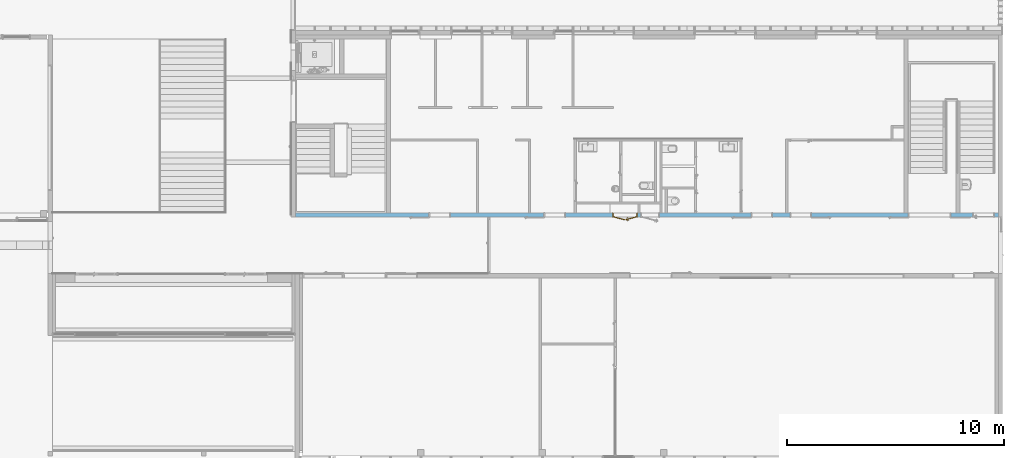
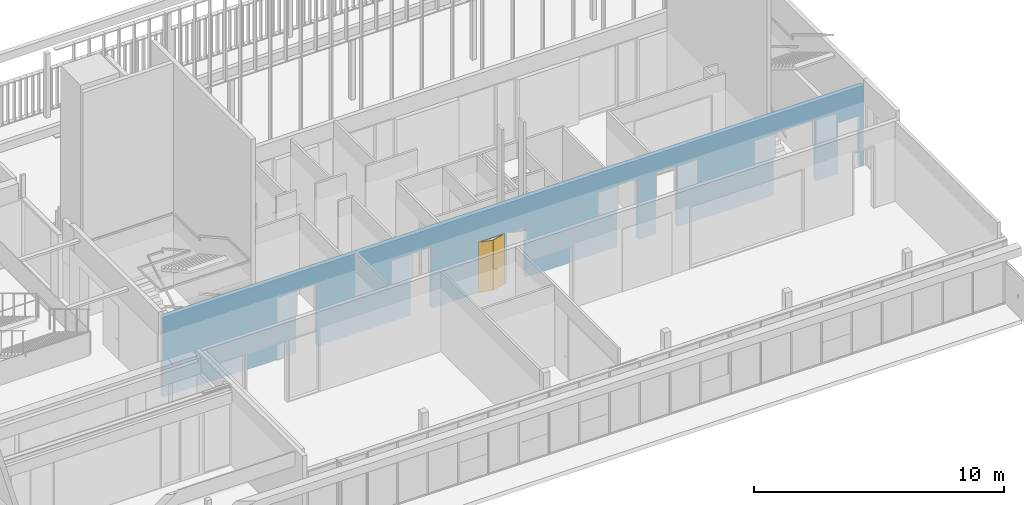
# One storey, part 166 of 240: 1 door, 8 openings, plus 1 element that does not belong to this part.
"""IFC2X3 building model written with IfcOpenShell, lengths in centimetres."""

from ifc_helpers import new_model, entity, si_unit, converted_unit, derived_unit, direction, frame, frame_2d, origin, place, context, subcontext, project, spatial, polyline, rectangle, extrude, clip, bounded_halfspace, faceted_brep, source, transform, mapped, material, material_list, layer, layer_set, layer_usage, type_object, type_shapes, element, fill, save


model = new_model("IFC2X3")

# Units and contexts
model_context = context("Model", 3, precision=0.001, world=origin(), true_north=direction((6.12303176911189e-17, 1.0)))
body_context = subcontext(model_context, "Body", "Model", "MODEL_VIEW")
ifc_project = project(units=[si_unit("LENGTHUNIT", "METRE", prefix="CENTI"), si_unit("AREAUNIT", "SQUARE_METRE"), si_unit("VOLUMEUNIT", "CUBIC_METRE"), converted_unit("PLANEANGLEUNIT", "DEGREE", entity("IfcRatioMeasure", 0.0174532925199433), si_unit("PLANEANGLEUNIT", "RADIAN"), dimensions=[0, 0, 0, 0, 0, 0, 0]), si_unit("MASSUNIT", "GRAM", prefix="KILO"), derived_unit("MASSDENSITYUNIT", [(si_unit("MASSUNIT", "GRAM", prefix="KILO"), 1), (si_unit("LENGTHUNIT", "METRE"), -3)]), si_unit("TIMEUNIT", "SECOND"), si_unit("FREQUENCYUNIT", "HERTZ"), si_unit("THERMODYNAMICTEMPERATUREUNIT", "DEGREE_CELSIUS"), derived_unit("THERMALTRANSMITTANCEUNIT", [(si_unit("MASSUNIT", "GRAM", prefix="KILO"), 1), (si_unit("THERMODYNAMICTEMPERATUREUNIT", "KELVIN"), -1), (si_unit("TIMEUNIT", "SECOND"), -3)]), derived_unit("VOLUMETRICFLOWRATEUNIT", [(si_unit("LENGTHUNIT", "METRE"), 3), (si_unit("TIMEUNIT", "SECOND"), -1)]), si_unit("ELECTRICCURRENTUNIT", "AMPERE"), si_unit("ELECTRICVOLTAGEUNIT", "VOLT"), si_unit("POWERUNIT", "WATT"), si_unit("FORCEUNIT", "NEWTON", prefix="KILO"), si_unit("ILLUMINANCEUNIT", "LUX"), si_unit("LUMINOUSFLUXUNIT", "LUMEN"), si_unit("LUMINOUSINTENSITYUNIT", "CANDELA"), derived_unit("USERDEFINED", [(si_unit("MASSUNIT", "GRAM", prefix="KILO"), -1), (si_unit("LENGTHUNIT", "METRE"), -2), (si_unit("TIMEUNIT", "SECOND"), 3), (si_unit("LUMINOUSFLUXUNIT", "LUMEN"), 1)]), derived_unit("LINEARVELOCITYUNIT", [(si_unit("LENGTHUNIT", "METRE"), 1), (si_unit("TIMEUNIT", "SECOND"), -1)]), si_unit("PRESSUREUNIT", "PASCAL"), derived_unit("USERDEFINED", [(si_unit("LENGTHUNIT", "METRE"), -2), (si_unit("MASSUNIT", "GRAM", prefix="KILO"), 1), (si_unit("TIMEUNIT", "SECOND"), -2)])], contexts=[model_context])

# Site, building, storey
site_placement = place(None, frame((-2781.94577612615, 7442.24238424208, 0.0)))
site = spatial("IfcSite", under=ifc_project, at=site_placement, Name="Default", CompositionType="ELEMENT")
building_placement = place(site_placement, origin())
building = spatial("IfcBuilding", under=site, at=building_placement, CompositionType="ELEMENT")
storey_placement = place(building_placement, origin())
storey = spatial("IfcBuildingStorey", under=building, at=storey_placement, Name="N00 - COO", CompositionType="ELEMENT", Elevation=0.0)

# Wall, openings, door
ifc_material_1 = material(Name="01 - Maçonnerie")
ifc_layer = layer(ifc_material_1, 20.0)
ifc_layer_set = layer_set([ifc_layer], Name="Mur de base:04 - Structure - béton - 20cm")
ifc_layer_usage = layer_usage(ifc_layer_set, "AXIS2", "NEGATIVE", 10.0)
wall_type = type_object("IfcWallType", Name="Mur de base:04 - Structure - béton - 20cm", PredefinedType="STANDARD", material=ifc_layer_set)
wall_placement = place(building_placement, frame((-3647.99987968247, -1920.07903364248, 0.0)))
wall = element("IfcWallStandardCase", 1, at=wall_placement, inside=storey, type_object=wall_type, material=ifc_layer_usage, Name="Mur de base:04 - Structure - béton - 20cm", ObjectType="Mur de base:04 - Structure - béton - 20cm", context=body_context, shape_type="Clipping", body=[
    clip(extrude(rectangle(XDim=3237.99999684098, YDim=19.9999999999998, at=frame_2d((1618.99999842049, -2.66453525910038e-15), x_axis=(-1.0, 0.0))), origin(), (0.0, 0.0, 1.0), 391.0), bounded_halfspace(frame((0.0, -10.0, 391.0), z_axis=(0.0, 0.0, -1.0), x_axis=(0.0, 1.0, 0.0)), True, frame((0.0, -10.0, 391.0)), polyline([(0.0, 0.0), (3238.0, 0.0), (3238.0, 20.0), (3062.69999684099, 20.0), (3042.69999684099, 20.0), (2268.49999684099, 20.0), (2258.49999684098, 20.0), (2058.49999684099, 20.0), (2048.49999684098, 20.0), (1848.49999684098, 20.0), (1838.49999684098, 20.0), (1713.49999684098, 20.0), (1703.49999684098, 20.0), (1293.99999684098, 20.0), (1283.99999684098, 20.0), (1083.99999684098, 20.0), (1073.99999684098, 20.0), (843.999996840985, 20.0), (833.999996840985, 20.0), (438.699996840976, 20.0), (0.0, 20.0), (0.0, 0.0)]))),
])
opening_1_placement = place(wall_placement, frame((3019.69999684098, 10.0, 0.0)))
element("IfcOpeningElement", 2, at=opening_1_placement, cuts=wall, Name="Int. Double:PP (1.90m x 3.00m):1", ObjectType="Opening", context=body_context, shape_type="SweptSolid", body=[
    extrude(rectangle(XDim=304.500000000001, YDim=197.0, at=frame_2d((152.250000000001, 98.5), x_axis=(1.0, 0.0))), frame((0.0, 0.0, 0.0), z_axis=(0.0, -1.0, 0.0), x_axis=(0.0, 0.0, 1.0)), (0.0, 0.0, 1.0), 20.0),
])
opening_2_placement = place(wall_placement, frame((1243.99999684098, 10.0, 0.0)))
element("IfcOpeningElement", 3, at=opening_2_placement, cuts=wall, Name="Int. Simple:PV (0.93m x 3.00m):1", ObjectType="Opening", context=body_context, shape_type="SweptSolid", body=[
    extrude(rectangle(XDim=304.500000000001, YDim=99.9999999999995, at=frame_2d((152.250000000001, 49.9999999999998), x_axis=(1.0, 0.0))), frame((0.0, 0.0, 0.0), z_axis=(0.0, -1.0, 0.0), x_axis=(0.0, 0.0, 1.0)), (0.0, 0.0, 1.0), 20.0),
])
opening_3_placement = place(wall_placement, frame((2198.49999684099, 10.0, 0.0)))
element("IfcOpeningElement", 4, at=opening_3_placement, cuts=wall, Name="Int. Simple:PV (0.93m x 3.00m):1", ObjectType="Opening", context=body_context, shape_type="SweptSolid", body=[
    extrude(rectangle(XDim=304.500000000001, YDim=99.9999999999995, at=frame_2d((152.250000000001, 49.9999999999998), x_axis=(1.0, 0.0))), frame((0.0, 0.0, 0.0), z_axis=(0.0, -1.0, 0.0), x_axis=(0.0, 0.0, 1.0)), (0.0, 0.0, 1.0), 20.0),
])
opening_4_placement = place(wall_placement, frame((713.999996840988, 10.0, 0.0)))
element("IfcOpeningElement", 5, at=opening_4_placement, cuts=wall, Name="Int. Simple:PP (0.93m x 3.06m):1", ObjectType="Opening", context=body_context, shape_type="SweptSolid", body=[
    extrude(rectangle(XDim=309.500000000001, YDim=99.9999999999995, at=frame_2d((154.750000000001, 49.9999999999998), x_axis=(1.0, 0.0))), frame((0.0, 0.0, 0.0), z_axis=(0.0, -1.0, 0.0), x_axis=(0.0, 0.0, 1.0)), (0.0, 0.0, 1.0), 20.0),
])
opening_5_placement = place(wall_placement, frame((1576.99999684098, 10.0, 0.0)))
opening_5 = element("IfcOpeningElement", 6, at=opening_5_placement, cuts=wall, Name="Int. Double:PP Placard (1.10m x 2.50m):1", ObjectType="Opening", context=body_context, shape_type="SweptSolid", body=[
    extrude(rectangle(XDim=248.500000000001, YDim=117.0, at=frame_2d((124.250000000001, 58.5000000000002), x_axis=(1.0, 0.0))), frame((0.0, 0.0, 0.0), z_axis=(0.0, -1.0, 0.0), x_axis=(0.0, 0.0, 1.0)), (0.0, 0.0, 1.0), 20.0),
])
opening_6_placement = place(wall_placement, frame((1677.0, 10.0, 0.0)))
element("IfcOpeningElement", 7, at=opening_6_placement, cuts=wall, Name="Int. Simple:PP Placard (0.80m x 2.50m):1", ObjectType="Opening", context=body_context, shape_type="SweptSolid", body=[
    extrude(rectangle(XDim=248.500000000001, YDim=86.9999999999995, at=frame_2d((124.250000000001, 43.4999999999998), x_axis=(1.0, 0.0))), frame((0.0, 0.0, 0.0), z_axis=(0.0, -1.0, 0.0), x_axis=(0.0, 0.0, 1.0)), (0.0, 0.0, 1.0), 20.0),
])
opening_7_placement = place(wall_placement, frame((2378.49999684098, 10.0, 0.0)))
element("IfcOpeningElement", 8, at=opening_7_placement, cuts=wall, Name="Int. Simple:PV (0.93m x 3.00m):1", ObjectType="Opening", context=body_context, shape_type="SweptSolid", body=[
    extrude(rectangle(XDim=304.500000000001, YDim=99.9999999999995, at=frame_2d((152.250000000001, 49.9999999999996), x_axis=(1.0, 0.0))), frame((0.0, 0.0, 0.0), z_axis=(0.0, -1.0, 0.0), x_axis=(0.0, 0.0, 1.0)), (0.0, 0.0, 1.0), 20.0),
])
opening_8_placement = place(wall_placement, frame((3220.0, 10.0, 0.0)))
element("IfcOpeningElement", 9, at=opening_8_placement, cuts=wall, Name="Int. Simple:PP simple (0.93m x 2.50m):1", ObjectType="Opening", context=body_context, shape_type="SweptSolid", body=[
    extrude(rectangle(XDim=248.500000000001, YDim=99.9999999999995, at=frame_2d((124.250000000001, 49.9999999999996), x_axis=(1.0, 0.0))), frame((0.0, 0.0, 0.0), z_axis=(0.0, -1.0, 0.0), x_axis=(0.0, 0.0, 1.0)), (0.0, 0.0, 1.0), 20.0),
])
ifc_material_2 = material(Name="Bois - Panneau de porte")
ifc_material_3 = material(Name="Finition Peinture - Blanc satiné")
ifc_material_4 = material(Name="Bois - Cadre de porte")
ifc_material_list_1 = material_list([ifc_material_2, ifc_material_3, ifc_material_4])
ifc_material_list_2 = material_list([ifc_material_2, ifc_material_3, ifc_material_4])
door_style = type_object("IfcDoorStyle", Name="PP Placard (1.10m x 2.50m)", ConstructionType="NOTDEFINED", OperationType="DOUBLE_DOOR_SINGLE_SWING", ParameterTakesPrecedence=False, Sizeable=False, material=ifc_material_list_2)
shared_shape = source(origin(), body_context, "Body", "Brep", [
    faceted_brep([(57.6611966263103, -10.3713441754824, 245.0), (57.6611966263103, -10.3713441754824, 0.0), (4.53527618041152, 3.86370330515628, 0.0), (4.53527618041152, 3.86370330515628, 245.0), (56.6259204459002, -14.2350474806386, 245.0), (3.50000000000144, 0.0, 245.0), (3.50000000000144, 0.0, 0.0), (56.6259204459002, -14.2350474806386, 0.0)], [[[0, 1, 2, 3]], [[4, 5, 6, 7]], [[3, 5, 4, 0]], [[2, 6, 5, 3]], [[1, 7, 6, 2]], [[0, 4, 7, 1]]]),
    faceted_brep([(67.2990440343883, -12.897146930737, 86.6003983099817), (68.2308956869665, -12.6474580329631, 87.0), (68.2308956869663, -12.6474580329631, 108.0), (67.2990440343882, -12.897146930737, 108.399601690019), (66.2990440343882, -13.1650961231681, 108.535898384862), (65.2990440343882, -13.4330453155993, 108.399601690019), (64.3671923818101, -13.6827342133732, 108.0), (64.3671923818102, -13.6827342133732, 87.0), (65.2990440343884, -13.4330453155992, 86.6003983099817), (66.2990440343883, -13.1650961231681, 86.464101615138), (67.169634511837, -12.4141840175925, 108.399601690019), (68.1014861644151, -12.1644951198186, 108.0), (68.1014861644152, -12.1644951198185, 87.0), (67.1696345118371, -12.4141840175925, 86.6003983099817), (66.1696345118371, -12.6821332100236, 86.464101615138), (65.1696345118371, -12.9500824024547, 86.6003983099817), (64.2377828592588, -13.1997713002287, 87.0), (64.2377828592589, -13.1997713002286, 108.0), (65.169634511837, -12.9500824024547, 108.399601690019), (66.169634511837, -12.6821332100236, 108.535898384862)], [[[0, 1, 2, 3, 4, 5, 6, 7, 8, 9]], [[10, 11, 12, 13, 14, 15, 16, 17, 18, 19]], [[16, 15, 8, 7]], [[8, 15, 14, 9]], [[14, 13, 0, 9]], [[13, 12, 1, 0]], [[2, 1, 12, 11]], [[11, 10, 3, 2]], [[3, 10, 19, 4]], [[19, 18, 5, 4]], [[18, 17, 6, 5]], [[7, 6, 17, 16]]]),
    faceted_brep([(66.134358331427, -8.55048071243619, 86.6003983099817), (67.0662099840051, -8.30079181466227, 87.0), (67.066209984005, -8.30079181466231, 108.0), (66.1343583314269, -8.55048071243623, 108.399601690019), (65.1343583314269, -8.81842990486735, 108.535898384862), (64.1343583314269, -9.08637909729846, 108.399601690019), (63.2025066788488, -9.33606799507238, 108.0), (63.2025066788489, -9.33606799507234, 87.0), (64.134358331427, -9.08637909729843, 86.6003983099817), (65.134358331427, -8.81842990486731, 86.464101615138), (66.0049488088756, -8.0675177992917, 108.399601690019), (66.9368004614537, -7.81782890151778, 108.0), (66.9368004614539, -7.81782890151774, 87.0), (66.0049488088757, -8.06751779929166, 86.6003983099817), (65.0049488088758, -8.33546699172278, 86.464101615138), (64.0049488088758, -8.6034161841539, 86.6003983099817), (63.0730971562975, -8.85310508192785, 87.0), (63.0730971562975, -8.85310508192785, 108.0), (64.0049488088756, -8.60341618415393, 108.399601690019), (65.0049488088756, -8.33546699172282, 108.535898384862)], [[[0, 1, 2, 3, 4, 5, 6, 7, 8, 9]], [[10, 11, 12, 13, 14, 15, 16, 17, 18, 19]], [[11, 10, 3, 2]], [[3, 10, 19, 4]], [[19, 18, 5, 4]], [[18, 17, 6, 5]], [[7, 6, 17, 16]], [[16, 15, 8, 7]], [[8, 15, 14, 9]], [[14, 13, 0, 9]], [[13, 12, 1, 0]], [[2, 1, 12, 11]]]),
    faceted_brep([(66.1034152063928, -13.2175147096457, 100.778044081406), (66.4946728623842, -13.1126775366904, 100.778044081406), (66.8785995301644, -13.0098046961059, 100.699999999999), (66.8785995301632, -13.0098046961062, 99.3000000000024), (66.4946728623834, -13.1126775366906, 99.2219559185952), (66.1034152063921, -13.217514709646, 99.221955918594), (65.7194885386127, -13.3203875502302, 99.2999999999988), (65.7194885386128, -13.3203875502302, 100.7), (66.4351478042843, -15.9912642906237, 100.7), (66.7764631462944, -15.7293638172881, 100.778044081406), (68.742041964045, -16.8641912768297, 100.778044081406), (68.7992690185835, -16.4295086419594, 100.778044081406), (67.1242958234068, -15.4624624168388, 100.778044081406), (67.4656111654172, -15.200561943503, 100.7), (67.4656111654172, -15.2005619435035, 99.3000000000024), (67.1242958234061, -15.4624624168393, 99.2219559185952), (68.7992690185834, -16.4295086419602, 99.2219559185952), (68.7420419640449, -16.8641912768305, 99.221955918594), (66.7764631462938, -15.7293638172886, 99.221955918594), (66.4351478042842, -15.9912642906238, 99.2999999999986), (68.6858871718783, -17.2907292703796, 100.7), (68.8554238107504, -16.0029706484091, 100.7), (68.8554238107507, -16.0029706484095, 99.3000000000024), (68.6858871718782, -17.2907292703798, 99.2999999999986), (77.1513993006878, -15.0224021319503, 99.2999999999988), (77.0485264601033, -14.63847546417, 99.221955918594), (76.9436892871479, -14.2472178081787, 99.2219559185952), (76.8408164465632, -13.8632911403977, 99.3000000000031), (76.8408164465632, -13.8632911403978, 100.7), (76.9436892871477, -14.2472178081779, 100.778044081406), (77.048526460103, -14.6384754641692, 100.778044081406), (77.1513993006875, -15.0224021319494, 100.699999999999), (72.5428760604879, -16.257252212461, 100.7), (72.9238977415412, -15.5339920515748, 100.78786867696), (72.8481201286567, -14.9331308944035, 100.7), (72.8481201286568, -14.9331308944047, 99.3000000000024), (72.9238977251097, -15.5339920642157, 99.2121313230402), (72.5428763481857, -16.2572521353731, 99.2999999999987)], [[[0, 1, 2, 3, 4, 5, 6, 7]], [[8, 9, 0, 7]], [[9, 10, 11, 12, 1, 0]], [[12, 13, 2, 1]], [[3, 2, 13, 14]], [[14, 15, 4, 3]], [[15, 16, 17, 18, 5, 4]], [[18, 19, 6, 5]], [[7, 6, 19, 8]], [[20, 10, 9, 8]], [[11, 21, 13, 12]], [[14, 13, 21, 22]], [[22, 16, 15, 14]], [[17, 23, 19, 18]], [[8, 19, 23, 20]], [[24, 25, 26, 27, 28, 29, 30, 31]], [[32, 30, 33]], [[31, 30, 32]], [[10, 20, 32]], [[33, 34, 11]], [[21, 11, 34]], [[34, 29, 28]], [[30, 29, 33]], [[29, 34, 33]], [[10, 32, 33]], [[10, 33, 11]], [[22, 21, 34, 28, 27, 35]], [[35, 26, 36]], [[37, 36, 25]], [[22, 35, 16]], [[35, 27, 26]], [[24, 37, 25]], [[23, 17, 37]], [[37, 17, 36]], [[17, 16, 36]], [[16, 35, 36]], [[25, 36, 26]], [[20, 23, 37, 24, 31, 32]]]),
    faceted_brep([(64.8093199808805, -8.38788557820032, 100.778044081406), (64.4253933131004, -8.49075841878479, 100.7), (64.4253933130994, -8.49075841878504, 99.2999999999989), (64.8093199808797, -8.38788557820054, 99.221955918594), (65.2005776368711, -8.28304840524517, 99.2219559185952), (65.5845043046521, -8.18017556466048, 99.3000000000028), (65.5845043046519, -8.18017556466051, 100.7), (65.2005776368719, -8.28304840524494, 100.778044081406), (65.0025443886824, -6.00827159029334, 99.3000000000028), (65.0025443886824, -6.00827159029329, 100.7), (64.5760063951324, -5.95211679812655, 100.778044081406), (65.5527759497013, -4.26030230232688, 100.778044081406), (65.285874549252, -3.9124696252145, 100.778044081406), (64.141323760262, -5.89488974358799, 100.778044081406), (63.7147857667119, -5.83873495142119, 100.7), (63.7147857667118, -5.8387349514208, 99.2999999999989), (64.1413237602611, -5.89488974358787, 99.221955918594), (65.2858745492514, -3.91246962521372, 99.221955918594), (65.5527759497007, -4.26030230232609, 99.2219559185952), (64.5760063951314, -5.95211679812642, 99.2219559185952), (65.814676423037, -4.60161764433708, 99.3000000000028), (65.814676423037, -4.60161764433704, 100.7), (65.0239740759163, -3.57115428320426, 100.7), (65.0239740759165, -3.57115428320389, 99.2999999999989), (73.789408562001, -2.46479460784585, 99.3000000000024), (73.6865357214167, -2.08086794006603, 99.2219559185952), (73.5816985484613, -1.68961028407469, 99.221955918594), (73.4788257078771, -1.30568361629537, 99.2999999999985), (73.4788257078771, -1.30568361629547, 100.7), (73.5816985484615, -1.68961028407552, 100.778044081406), (73.6865357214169, -2.08086794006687, 100.778044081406), (73.7894085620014, -2.46479460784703, 100.7), (69.8020413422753, -3.53320643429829, 99.3000000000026), (69.8020424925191, -3.53320612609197, 100.7), (69.5672372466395, -2.97495629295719, 100.78786867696), (68.8809629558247, -2.53767722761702, 100.7), (68.880962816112, -2.53767726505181, 99.2999999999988), (69.5672372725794, -2.97495629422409, 99.2121313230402)], [[[0, 1, 2, 3, 4, 5, 6, 7]], [[6, 5, 8, 9]], [[9, 10, 7, 6]], [[10, 11, 12, 13, 0, 7]], [[13, 14, 1, 0]], [[2, 1, 14, 15]], [[15, 16, 3, 2]], [[16, 17, 18, 19, 4, 3]], [[19, 8, 5, 4]], [[9, 8, 20, 21]], [[21, 11, 10, 9]], [[12, 22, 14, 13]], [[15, 14, 22, 23]], [[23, 17, 16, 15]], [[18, 20, 8, 19]], [[24, 25, 26, 27, 28, 29, 30, 31]], [[21, 20, 32, 24, 31, 33]], [[33, 30, 34]], [[35, 34, 29]], [[21, 33, 11]], [[33, 31, 30]], [[28, 35, 29]], [[22, 12, 35]], [[35, 12, 34]], [[12, 11, 34]], [[11, 33, 34]], [[29, 34, 30]], [[22, 35, 28, 27, 36, 23]], [[36, 26, 37]], [[27, 26, 36]], [[17, 23, 36]], [[37, 32, 18]], [[20, 18, 32]], [[32, 25, 24]], [[26, 25, 37]], [[25, 32, 37]], [[17, 36, 37]], [[17, 37, 18]]]),
    faceted_brep([(59.3388033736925, -10.3713441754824, 245.0), (112.464723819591, 3.86370330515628, 245.0), (112.464723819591, 3.86370330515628, 0.0), (59.3388033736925, -10.3713441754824, 0.0), (60.3740795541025, -14.2350474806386, 245.0), (60.3740795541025, -14.2350474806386, 0.0), (113.500000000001, 0.0, 0.0), (113.500000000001, 0.0, 245.0)], [[[0, 1, 2, 3]], [[4, 5, 6, 7]], [[1, 0, 4, 7]], [[2, 1, 7, 6]], [[3, 2, 6, 5]], [[0, 3, 5, 4]]]),
    faceted_brep([(0.0, 0.0, 0.0), (0.0, 20.0, 0.0), (5.0, 20.0, 0.0), (5.0, 4.0, 0.0), (3.50000000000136, 4.0, 0.0), (3.50000000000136, 0.0, 0.0), (0.0, 0.0, 248.500000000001), (0.0, 20.0, 248.500000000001), (117.0, 20.0, 248.500000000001), (117.0, 20.0, 0.0), (112.0, 20.0, 0.0), (112.0, 20.0, 243.5), (5.0, 20.0, 243.5), (5.0, 4.0, 243.5), (112.0, 4.0, 243.5), (112.0, 4.0, 0.0), (113.499999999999, 4.0, 0.0), (113.499999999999, 4.0, 245.0), (3.50000000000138, 4.0, 245.0), (3.50000000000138, 0.0, 245.0), (113.499999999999, 0.0, 245.0), (113.499999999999, 0.0, 0.0), (117.0, 0.0, 0.0), (117.0, 0.0, 248.500000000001)], [[[0, 1, 2, 3, 4, 5]], [[1, 0, 6, 7]], [[2, 1, 7, 8, 9, 10, 11, 12]], [[3, 2, 12, 13]], [[4, 3, 13, 14, 15, 16, 17, 18]], [[5, 4, 18, 19]], [[0, 5, 19, 20, 21, 22, 23, 6]], [[8, 23, 22, 9]], [[22, 21, 16, 15, 10, 9]], [[14, 11, 10, 15]], [[20, 17, 16, 21]], [[7, 6, 23, 8]], [[13, 12, 11, 14]], [[19, 18, 17, 20]]]),
    faceted_brep([(1.50000000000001, 20.0, 0.0), (-1.49999999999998, 20.0, 0.0), (-1.49999999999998, 20.5000000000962, 0.0), (1.50000000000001, 20.5000000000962, 0.0), (1.50000000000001, 20.0, 247.0), (115.5, 20.0, 247.0), (115.5, 20.0, 0.0), (118.5, 20.0, 0.0), (118.5, 20.0, 250.0), (-1.5, 20.0, 250.0), (-1.5, 20.5000000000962, 250.0), (118.5, 20.5000000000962, 250.0), (118.5, 20.5000000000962, 0.0), (115.5, 20.5000000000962, 0.0), (115.5, 20.5000000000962, 247.0), (1.50000000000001, 20.5000000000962, 247.0)], [[[0, 1, 2, 3]], [[1, 0, 4, 5, 6, 7, 8, 9]], [[2, 1, 9, 10]], [[3, 2, 10, 11, 12, 13, 14, 15]], [[0, 3, 15, 4]], [[5, 14, 13, 6]], [[6, 13, 12, 7]], [[11, 8, 7, 12]], [[10, 9, 8, 11]], [[4, 15, 14, 5]]]),
    faceted_brep([(-1.49999999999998, -0.500000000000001, 0.0), (1.50000000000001, -0.500000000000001, 0.0), (1.50000000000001, -0.500000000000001, 247.0), (115.5, -0.500000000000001, 247.0), (115.5, -0.500000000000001, 0.0), (118.5, -0.500000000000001, 0.0), (118.5, -0.500000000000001, 250.0), (-1.5, -0.500000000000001, 250.0), (-1.49999999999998, 0.0, 0.0), (-1.5, 0.0, 250.0), (1.50000000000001, 0.0, 0.0), (118.5, 0.0, 250.0), (118.5, 0.0, 0.0), (115.5, 0.0, 0.0), (115.5, 0.0, 247.0), (1.50000000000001, 0.0, 247.0)], [[[0, 1, 2, 3, 4, 5, 6, 7]], [[8, 0, 7, 9]], [[10, 8, 9, 11, 12, 13, 14, 15]], [[1, 10, 15, 2]], [[3, 14, 13, 4]], [[11, 6, 5, 12]], [[9, 7, 6, 11]], [[2, 15, 14, 3]], [[4, 13, 12, 5]], [[1, 0, 8, 10]]]),
])
type_shapes(door_style, [shared_shape])
door_placement = place(opening_5_placement, frame((-117.0, -20.0, 0.0)))
door = element("IfcDoor", 10, at=door_placement, inside=storey, type_object=door_style, material=ifc_material_list_1, Name="Int. Double:PP Placard (1.10m x 2.50m)", ObjectType="Int. Double:PP Placard (1.10m x 2.50m)", OverallHeight=248.500000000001, OverallWidth=117.0, context=body_context, shape_type="MappedRepresentation", body=[
    mapped(shared_shape, transform((0.0, 0.0, 0.0), scale=1.0)),
])
fill(opening_5, door)

save(model, "model.ifc")
